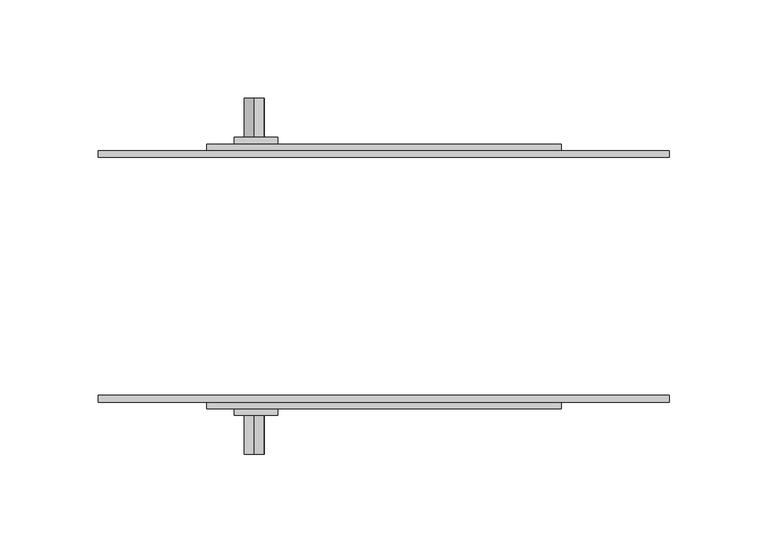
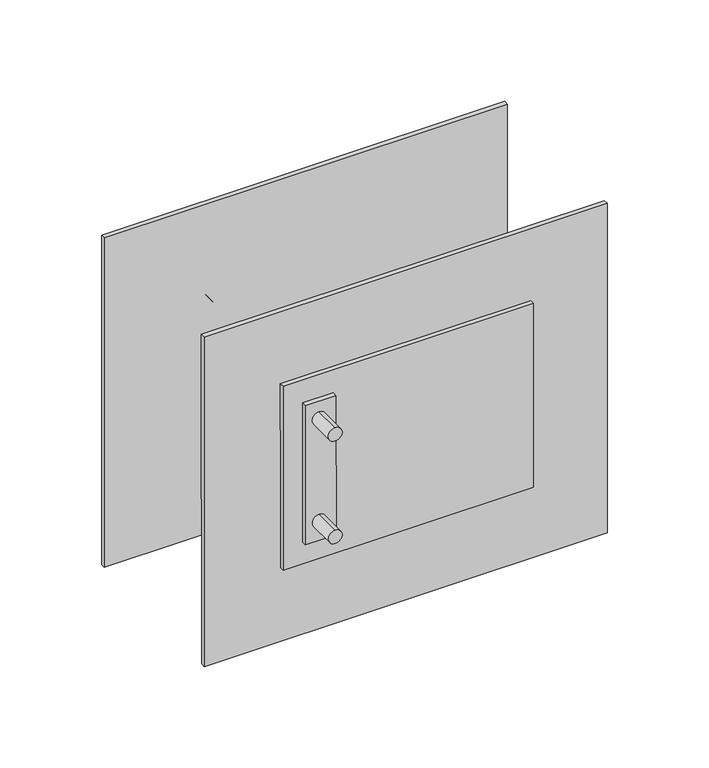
"""IFC4 building model written with IfcOpenShell, lengths in millimetres: proxy geometry, Distribution_Socket_Single_rotated_1 : Distribution_Socket_Single_rotated_1."""

import ifcopenshell
import ifcopenshell.guid

model = None  # the IFC model being written
_history = None  # IfcOwnerHistory: only IFC2X3 demands one
_inside = {}  # id of a spatial element -> (the spatial element, [elements in it])
_under = {}  # id of a project, library or spatial element -> (it, [spatial elements below it])
_declared = {}  # id of a project -> (the project, [libraries it declares])
_typed = {}  # id of a type object -> (the type object, [elements of that type])
_made_of = {}  # id of a material, layer set ... -> (it, [elements and type objects made of it])


def new_model(schema):
    """Start an empty IFC model of exactly this schema.

    Asked for "IFC4X3", IfcOpenShell would pick the latest addendum, in which some entities
    have other attributes; the version numbers below select the first issue.
    IFC2X3 requires an IfcOwnerHistory on every rooted entity: one is made here for all.
    """
    global model, _history
    if schema == "IFC4X3":
        model = ifcopenshell.file(schema_version=(4, 3, 0, 0))
    else:
        model = ifcopenshell.file(schema=schema)
    _inside.clear()
    _under.clear()
    _declared.clear()
    _typed.clear()
    _made_of.clear()
    _history = None
    if model.schema == "IFC2X3":
        org = make("IfcOrganization", Name="unknown")
        user = make(
            "IfcPersonAndOrganization",
            ThePerson=make("IfcPerson", FamilyName="unknown"),
            TheOrganization=org,
        )
        app = make(
            "IfcApplication",
            ApplicationDeveloper=org,
            Version="unknown",
            ApplicationFullName="unknown",
            ApplicationIdentifier="unknown",
        )
        _history = make(
            "IfcOwnerHistory",
            OwningUser=user,
            OwningApplication=app,
            ChangeAction="ADDED",
            CreationDate=0,
        )
    return model


def make(cls, **values):
    """One entity of the class cls with the attributes given. An attribute that is None is left unset."""
    return model.create_entity(
        cls, **{name: value for name, value in values.items() if value is not None}
    )


def rooted(cls, **values):
    """An entity with a GlobalId (a new one), such as an element, a storey or a relation."""
    return make(cls, GlobalId=ifcopenshell.guid.new(), OwnerHistory=_history, **values)


def si_unit(unit_type, name, prefix=None):
    """IfcSIUnit, for example si_unit("LENGTHUNIT", "METRE", prefix="MILLI")."""
    return make("IfcSIUnit", UnitType=unit_type, Prefix=prefix, Name=name)


def assignment(units):
    """IfcUnitAssignment: the units of a project."""
    return None if units is None else make("IfcUnitAssignment", Units=units)


def point(xyz):
    """IfcCartesianPoint."""
    return None if xyz is None else make("IfcCartesianPoint", Coordinates=xyz)


def direction(xyz):
    """IfcDirection."""
    return None if xyz is None else make("IfcDirection", DirectionRatios=xyz)


def frame(location, z_axis=None, x_axis=None):
    """IfcAxis2Placement3D, a coordinate frame: its origin and axes. An axis left out is left unset."""
    return make(
        "IfcAxis2Placement3D",
        Location=point(location),
        Axis=direction(z_axis),
        RefDirection=direction(x_axis),
    )


def frame_2d(location, x_axis=None):
    """IfcAxis2Placement2D, a coordinate frame in the plane: its origin and x axis."""
    return make(
        "IfcAxis2Placement2D", Location=point(location), RefDirection=direction(x_axis)
    )


def origin():
    """The frame at (0, 0, 0) with its axes left unset."""
    return frame((0.0, 0.0, 0.0))


def place(relative_to, where):
    """IfcLocalPlacement: puts the frame where relative to a parent placement (None: the world)."""
    return make(
        "IfcLocalPlacement", PlacementRelTo=relative_to, RelativePlacement=where
    )


def context(
    kind, dimensions, precision=None, world=None, true_north=None, identifier=None
):
    """IfcGeometricRepresentationContext, for example the 3D "Model" context."""
    return make(
        "IfcGeometricRepresentationContext",
        ContextIdentifier=identifier,
        ContextType=kind,
        CoordinateSpaceDimension=dimensions,
        Precision=precision,
        WorldCoordinateSystem=world,
        TrueNorth=true_north,
    )


def project(units=None, contexts=None):
    """IfcProject with its units and contexts."""
    return rooted(
        "IfcProject",
        Name="project",
        RepresentationContexts=contexts,
        UnitsInContext=assignment(units),
    )


def spatial(cls, under=None, at=None, **own):
    """A site, building, storey or space (cls), placed at a placement, below another one or the project."""
    s = rooted(cls, ObjectPlacement=at, **own)
    if under is not None:
        _under.setdefault(under.id(), (under, []))[1].append(s)
    return s


def polyline(points):
    """IfcPolyline through the points."""
    return make("IfcPolyline", Points=[point(p) for p in points])


def circle_curve(where, radius):
    """IfcCircle in the frame where."""
    return make("IfcCircle", Position=where, Radius=radius)


def trimmed(basis, trim1, trim2, sense, master):
    """IfcTrimmedCurve: the piece of a basis curve between two trims."""
    return make(
        "IfcTrimmedCurve",
        BasisCurve=basis,
        Trim1=trim1,
        Trim2=trim2,
        SenseAgreement=sense,
        MasterRepresentation=master,
    )


def segment(curve, same_sense, transition):
    """IfcCompositeCurveSegment."""
    return make(
        "IfcCompositeCurveSegment",
        Transition=transition,
        SameSense=same_sense,
        ParentCurve=curve,
    )


def composite_curve(segments, self_intersect=None):
    """IfcCompositeCurve: segments joined end to end."""
    return make("IfcCompositeCurve", Segments=segments, SelfIntersect=self_intersect)


def outline(outer, holes=None, kind="AREA"):
    """IfcArbitraryClosedProfileDef: a profile drawn as a closed curve; with holes, ...WithVoids."""
    if holes is None:
        return make("IfcArbitraryClosedProfileDef", ProfileType=kind, OuterCurve=outer)
    return make(
        "IfcArbitraryProfileDefWithVoids",
        ProfileType=kind,
        OuterCurve=outer,
        InnerCurves=holes,
    )


def extrude(swept, where, along, depth):
    """IfcExtrudedAreaSolid: the profile swept, set in the frame where, extruded along a direction by depth."""
    return make(
        "IfcExtrudedAreaSolid",
        SweptArea=swept,
        Position=where,
        ExtrudedDirection=direction(along),
        Depth=depth,
    )


def shape(context_of_items, identifier, shape_type, items):
    """IfcShapeRepresentation: the items that make up one representation, for example the "Body"."""
    return make(
        "IfcShapeRepresentation",
        ContextOfItems=context_of_items,
        RepresentationIdentifier=identifier,
        RepresentationType=shape_type,
        Items=items,
    )


def source(mapping_origin, context_of_items, identifier, shape_type, items):
    """IfcRepresentationMap: a shape defined once, which mapped items show again and again."""
    return make(
        "IfcRepresentationMap",
        MappingOrigin=mapping_origin,
        MappedRepresentation=shape(context_of_items, identifier, shape_type, items),
    )


def transform(
    local_origin,
    x_axis=None,
    y_axis=None,
    z_axis=None,
    scale=None,
    scale2=None,
    scale3=None,
    uniform=True,
):
    """IfcCartesianTransformationOperator3D, or its non-uniform kind. x_axis, y_axis, z_axis: its Axis1, 2, 3."""
    if uniform:
        return make(
            "IfcCartesianTransformationOperator3D",
            Axis1=direction(x_axis),
            Axis2=direction(y_axis),
            LocalOrigin=point(local_origin),
            Scale=scale,
            Axis3=direction(z_axis),
        )
    return make(
        "IfcCartesianTransformationOperator3DnonUniform",
        Axis1=direction(x_axis),
        Axis2=direction(y_axis),
        LocalOrigin=point(local_origin),
        Scale=scale,
        Axis3=direction(z_axis),
        Scale2=scale2,
        Scale3=scale3,
    )


def mapped(mapping_source, mapping_target):
    """IfcMappedItem: shows the shape of a source again, moved by a transform."""
    return make(
        "IfcMappedItem", MappingSource=mapping_source, MappingTarget=mapping_target
    )


def made_of(thing, what):
    """Note that an element or type object is made of a material, layer set ...; save() writes the relation."""
    if what is not None:
        _made_of.setdefault(what.id(), (what, []))[1].append(thing)
    return thing


def element(
    cls,
    number,
    at=None,
    inside=None,
    cuts=None,
    type_object=None,
    material=None,
    context=None,
    identifier="Body",
    shape_type=None,
    held_by="IfcProductDefinitionShape",
    body=None,
    shapes=None,
    **own,
):
    """One element of the class cls, such as IfcWall. Its Tag is "e" and its number.

    at: its placement. inside: the storey or other place that contains it. cuts: it is an
    opening in that element (IfcRelVoidsElement). A single representation is given by context,
    identifier, shape_type and body (its items); several are given by shapes. held_by: the class
    of the entity that holds the representations. save() writes the other relations.
    """
    e = rooted(cls, Tag="e%d" % number, ObjectPlacement=at, **own)
    if body is not None:
        shapes = [shape(context, identifier, shape_type, body)]
    if shapes is not None:
        e.Representation = make(held_by, Representations=shapes)
    if inside is not None:
        _inside.setdefault(inside.id(), (inside, []))[1].append(e)
    if cuts is not None:
        rooted(
            "IfcRelVoidsElement", RelatingBuildingElement=cuts, RelatedOpeningElement=e
        )
    if type_object is not None:
        _typed.setdefault(type_object.id(), (type_object, []))[1].append(e)
    return made_of(e, material)


def aggregate(whole, parts):
    """IfcRelAggregates: a whole, such as a stair, and the parts it consists of."""
    return rooted("IfcRelAggregates", RelatingObject=whole, RelatedObjects=parts)


def save(model, path):
    """Write the relations noted so far, then the file.

    IfcRelAggregates (storeys below a building ...), IfcRelContainedInSpatialStructure (elements
    in a storey), IfcRelDefinesByType, IfcRelAssociatesMaterial and IfcRelDeclares: one each for
    every whole, place, type object, material and project.
    """
    for whole, parts in _under.values():
        aggregate(whole, parts)
    for where, things in _inside.values():
        rooted(
            "IfcRelContainedInSpatialStructure",
            RelatedElements=things,
            RelatingStructure=where,
        )
    for kind, things in _typed.values():
        rooted("IfcRelDefinesByType", RelatedObjects=things, RelatingType=kind)
    for what, things in _made_of.values():
        rooted("IfcRelAssociatesMaterial", RelatedObjects=things, RelatingMaterial=what)
    for by, libraries in _declared.values():
        rooted("IfcRelDeclares", RelatingContext=by, RelatedDefinitions=libraries)
    model.write(path)


def electrical_equipment_c021a49d(model_context):
    return source(origin(), model_context, "Body", "SweptSolid", [
        extrude(outline(composite_curve([segment(trimmed(circle_curve(frame_2d((-38.3495044, -65.9108106)), 5.0), [point((-43.349503, -65.9071337))], [point((-33.3495057, -65.9144874))], False, "CARTESIAN"), True, "CONTINUOUS"), segment(trimmed(circle_curve(frame_2d((-38.3495044, -65.9108106)), 5.0), [point((-33.3495057, -65.9144874))], [point((-43.349503, -65.9071337))], False, "CARTESIAN"), True, "CONTINUOUS")], self_intersect=False)), frame((0.0, -90.4, 0.0), z_axis=(0.0, 1.0, 0.0), x_axis=(0.0, 0.0, 1.0)), (0.0, 0.0, 1.0), 20.9),
        extrude(outline(composite_curve([segment(trimmed(circle_curve(frame_2d((39.6461612, -65.9681666)), 5.0), [point((34.6461626, -65.9644897))], [point((44.6461599, -65.9718434))], False, "CARTESIAN"), True, "CONTINUOUS"), segment(trimmed(circle_curve(frame_2d((39.6461612, -65.9681666)), 5.0), [point((44.6461599, -65.9718434))], [point((34.6461626, -65.9644897))], False, "CARTESIAN"), True, "CONTINUOUS")], self_intersect=False)), frame((0.0, -90.4, 0.0), z_axis=(0.0, 1.0, 0.0), x_axis=(0.0, 0.0, 1.0)), (0.0, 0.0, 1.0), 20.9),
        extrude(outline(composite_curve([segment(trimmed(circle_curve(frame_2d((-38.3495044, -65.9108106)), 5.0), [point((-43.349503, -65.9071337))], [point((-33.3495057, -65.9144874))], False, "CARTESIAN"), True, "CONTINUOUS"), segment(trimmed(circle_curve(frame_2d((-38.3495044, -65.9108106)), 5.0), [point((-33.3495057, -65.9144874))], [point((-43.349503, -65.9071337))], False, "CARTESIAN"), True, "CONTINUOUS")], self_intersect=False)), frame((0.0, 69.5, 0.0), z_axis=(0.0, 1.0, 0.0), x_axis=(0.0, 0.0, 1.0)), (0.0, 0.0, 1.0), 20.9),
        extrude(outline(composite_curve([segment(trimmed(circle_curve(frame_2d((39.6461612, -65.9681666)), 5.0), [point((34.6461626, -65.9644897))], [point((44.6461599, -65.9718434))], False, "CARTESIAN"), True, "CONTINUOUS"), segment(trimmed(circle_curve(frame_2d((39.6461612, -65.9681666)), 5.0), [point((44.6461599, -65.9718434))], [point((34.6461626, -65.9644897))], False, "CARTESIAN"), True, "CONTINUOUS")], self_intersect=False)), frame((0.0, 69.5, 0.0), z_axis=(0.0, 1.0, 0.0), x_axis=(0.0, 0.0, 1.0)), (0.0, 0.0, 1.0), 20.9),
        extrude(outline(polyline([(0.0, 3.3705022), (21.9999999, 3.3705022), (21.9999999, 0.0), (0.0, 0.0), (0.0, 3.3705022)])), frame((-75.9610046, -70.6115, -53.0559094), z_axis=(-0.0007353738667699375, 0.0, 0.9999997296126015), x_axis=(0.9999997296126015, 0.0, 0.0007353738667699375)), (0.0, 0.0, 1.0), 106.0000706),
        extrude(outline(polyline([(0.0, 3.3705022), (21.9999999, 3.3705022), (21.9999999, 0.0), (0.0, 0.0), (0.0, 3.3705022)])), frame((-75.9610046, 67.2409978, -53.0559094), z_axis=(-0.0007353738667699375, 0.0, 0.9999997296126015), x_axis=(0.9999997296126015, 0.0, 0.0007353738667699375)), (0.0, 0.0, 1.0), 106.0000706),
        extrude(outline(polyline([(0.0, 3.3704978), (180.0, 3.3704978), (180.0, 0.0), (0.0, 0.0), (0.0, 3.3704978)])), frame((-89.9489553, -67.2409978, -69.446305), z_axis=(-0.0007353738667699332, 0.0, 0.9999997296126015), x_axis=(0.9999997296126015, 0.0, 0.0007353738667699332)), (0.0, 0.0, 1.0), 140.0000301),
        extrude(outline(polyline([(0.0, 3.3704974), (180.0, 3.3704974), (180.0, 0.0), (0.0, 0.0), (0.0, 3.3704974)])), frame((-89.9489553, 63.8705004, -69.446305), z_axis=(-0.0007353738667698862, 0.0, 0.9999997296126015), x_axis=(0.9999997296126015, 0.0, 0.0007353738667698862)), (0.0, 0.0, 1.0), 140.0000301),
        extrude(outline(polyline([(0.0, 3.3705), (290.0, 3.3705), (290.0, 0.0), (0.0, 0.0), (0.0, 3.3705)])), frame((-144.9077651, -63.8705, -125.4791926), z_axis=(-0.0007353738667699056, 0.0, 0.9999997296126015), x_axis=(0.9999997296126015, 0.0, 0.0007353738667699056)), (0.0, 0.0, 1.0), 250.7451946),
        extrude(outline(polyline([(0.0, 3.3705004), (290.0, 3.3705004), (290.0, 0.0), (0.0, 0.0), (0.0, 3.3705004)])), frame((-144.9077651, 60.5, -125.4791926), z_axis=(-0.0007353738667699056, 0.0, 0.9999997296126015), x_axis=(0.9999997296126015, 0.0, 0.0007353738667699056)), (0.0, 0.0, 1.0), 250.7451946),
    ])


if __name__ == "__main__":
    model = new_model("IFC4")
    model_context = context("Model", 3, world=origin())
    ifc_project = project(units=[si_unit("LENGTHUNIT", "METRE", prefix="MILLI")], contexts=[model_context])
    site = spatial("IfcSite", under=ifc_project)
    building = spatial("IfcBuilding", under=site)
    placement = place(None, origin())
    electrical_equipment_shape = electrical_equipment_c021a49d(model_context)
    element("IfcBuildingElementProxy", 1, Name="Distribution_Socket_Single_rotated_1 : Distribution_Socket_Single_rotated_1", ObjectType="Distribution_Socket_Single_rotated_1 : Distribution_Socket_Single_rotated_1", at=placement, inside=building, context=model_context, shape_type="MappedRepresentation", body=[
        mapped(electrical_equipment_shape, transform((0.0, 0.0, 0.0), x_axis=(1.0, 0.0, 0.0), y_axis=(0.0, 1.0, 0.0), z_axis=(0.0, 0.0, 1.0))),
    ])
    save(model, "model.ifc")
